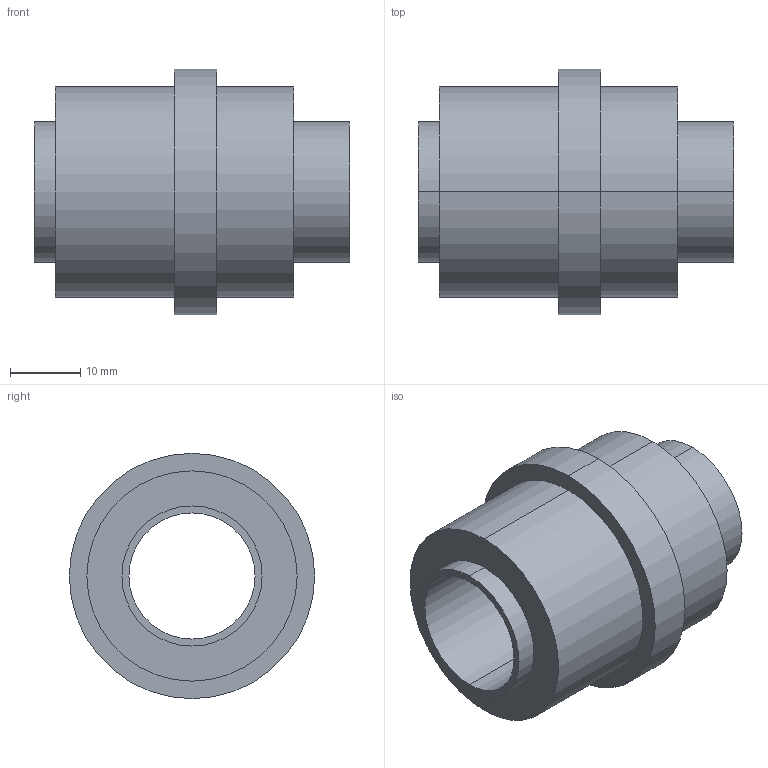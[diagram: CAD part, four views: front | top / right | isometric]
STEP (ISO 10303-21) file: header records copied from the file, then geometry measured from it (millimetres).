
FILE_DESCRIPTION (( 'STEP AP214' ), '1' );
FILE_NAME ('BR12-18x45.STEP', '2020-06-22T10:59:32', ( '' ), ( '' ), 'SwSTEP 2.0', 'SolidWorks 2018', '' );
FILE_SCHEMA (( 'AUTOMOTIVE_DESIGN' ));
Length unit declared in the file: millimetre
Products named in the file (1): BR12-18x45
Bounding box: 45 x 35 x 35 mm (x, y, z)
Volume: 17569.4 mm3; surface area: 7949.8 mm2
Topology: 1 solids, 1 shells, 18 faces, 36 edges, 24 vertices
Faces by surface type: cylinder 12, plane 6
Entity records: 522 total; most frequent: DIRECTION 98, CARTESIAN_POINT 79, ORIENTED_EDGE 72, AXIS2_PLACEMENT_3D 43, EDGE_CURVE 36, EDGE_LOOP 24, CIRCLE 24, VERTEX_POINT 24
